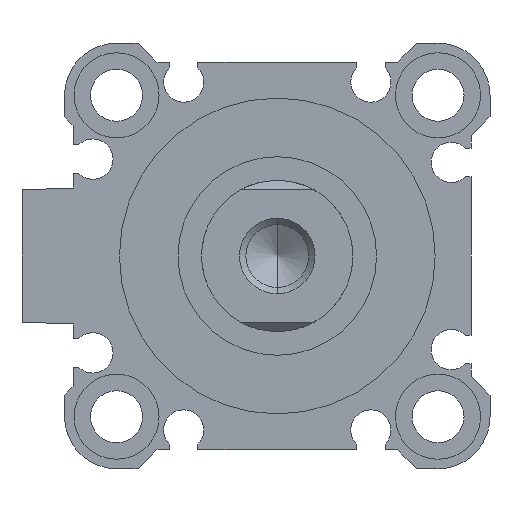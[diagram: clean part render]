
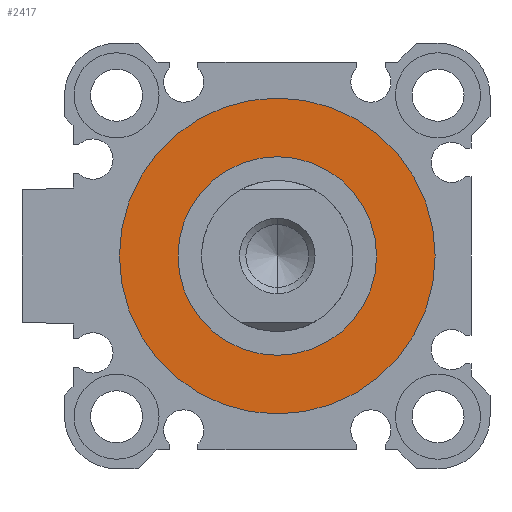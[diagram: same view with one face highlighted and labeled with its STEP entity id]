
A CAD part, left-side view. The second image highlights one B-rep face of the part: STEP entity #2417.
In plain terms, the highlighted planar face has unit normal (-1, 0, 0).
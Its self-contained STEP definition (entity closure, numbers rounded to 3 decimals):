
#275 = CARTESIAN_POINT ( 'NONE',  ( 2.1, 0., 0. ) ) ;
#322 = FACE_BOUND ( 'NONE', #597, .T. ) ;
#329 = VERTEX_POINT ( 'NONE', #3781 ) ;
#597 = EDGE_LOOP ( 'NONE', ( #4703, #3155 ) ) ;
#613 = DIRECTION ( 'NONE',  ( 1., 0., 0. ) ) ;
#773 = DIRECTION ( 'NONE',  ( 1., 0., 0. ) ) ;
#1124 = EDGE_LOOP ( 'NONE', ( #3233, #1791 ) ) ;
#1227 = CARTESIAN_POINT ( 'NONE',  ( 2.1, 0., 0. ) ) ;
#1310 = AXIS2_PLACEMENT_3D ( 'NONE', #4617, #3859, #3835 ) ;
#1430 = DIRECTION ( 'NONE',  ( 0., 0., -1. ) ) ;
#1590 = VERTEX_POINT ( 'NONE', #2830 ) ;
#1653 = DIRECTION ( 'NONE',  ( 0., 0., -1. ) ) ;
#1677 = CARTESIAN_POINT ( 'NONE',  ( 2.1, 0., 0. ) ) ;
#1791 = ORIENTED_EDGE ( 'NONE', *, *, #3279, .F. ) ;
#1854 = CARTESIAN_POINT ( 'NONE',  ( 2.1, 0., 0. ) ) ;
#1886 = CIRCLE ( 'NONE', #2293, 16.7 ) ;
#1899 = DIRECTION ( 'NONE',  ( 0., 0., -1. ) ) ;
#2293 = AXIS2_PLACEMENT_3D ( 'NONE', #1227, #4598, #2675 ) ;
#2417 = ADVANCED_FACE ( 'NONE', ( #3000, #322 ), #4193, .F. ) ;
#2539 = VERTEX_POINT ( 'NONE', #2981 ) ;
#2675 = DIRECTION ( 'NONE',  ( 0., 0., -1. ) ) ;
#2727 = CIRCLE ( 'NONE', #4911, 16.7 ) ;
#2805 = AXIS2_PLACEMENT_3D ( 'NONE', #1854, #773, #1899 ) ;
#2830 = CARTESIAN_POINT ( 'NONE',  ( 2.1, 0., 10.5 ) ) ;
#2959 = CIRCLE ( 'NONE', #2805, 10.5 ) ;
#2981 = CARTESIAN_POINT ( 'NONE',  ( 2.1, 0., -10.5 ) ) ;
#3000 = FACE_OUTER_BOUND ( 'NONE', #1124, .T. ) ;
#3155 = ORIENTED_EDGE ( 'NONE', *, *, #3790, .T. ) ;
#3222 = DIRECTION ( 'NONE',  ( 1., 0., 0. ) ) ;
#3233 = ORIENTED_EDGE ( 'NONE', *, *, #4622, .F. ) ;
#3279 = EDGE_CURVE ( 'NONE', #3945, #329, #2727, .T. ) ;
#3592 = CIRCLE ( 'NONE', #4805, 10.5 ) ;
#3781 = CARTESIAN_POINT ( 'NONE',  ( 2.1, 0., 16.7 ) ) ;
#3790 = EDGE_CURVE ( 'NONE', #2539, #1590, #2959, .T. ) ;
#3835 = DIRECTION ( 'NONE',  ( 0., 1., 0. ) ) ;
#3859 = DIRECTION ( 'NONE',  ( 1., 0., 0. ) ) ;
#3945 = VERTEX_POINT ( 'NONE', #4014 ) ;
#4014 = CARTESIAN_POINT ( 'NONE',  ( 2.1, 0., -16.7 ) ) ;
#4193 = PLANE ( 'NONE',  #1310 ) ;
#4598 = DIRECTION ( 'NONE',  ( 1., 0., 0. ) ) ;
#4617 = CARTESIAN_POINT ( 'NONE',  ( 2.1, 0., 0. ) ) ;
#4622 = EDGE_CURVE ( 'NONE', #329, #3945, #1886, .T. ) ;
#4703 = ORIENTED_EDGE ( 'NONE', *, *, #4914, .T. ) ;
#4805 = AXIS2_PLACEMENT_3D ( 'NONE', #275, #613, #1430 ) ;
#4911 = AXIS2_PLACEMENT_3D ( 'NONE', #1677, #3222, #1653 ) ;
#4914 = EDGE_CURVE ( 'NONE', #1590, #2539, #3592, .T. ) ;
